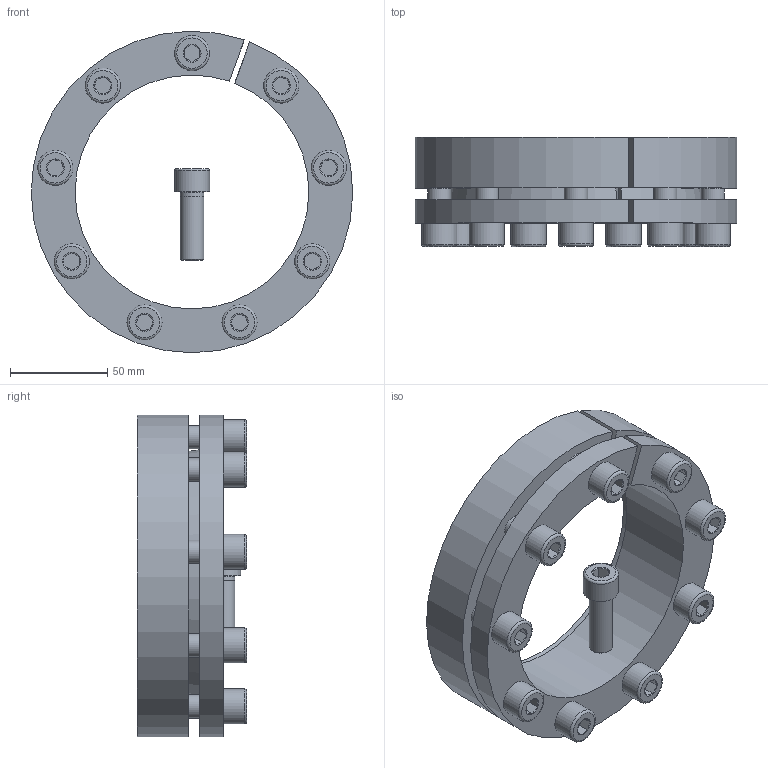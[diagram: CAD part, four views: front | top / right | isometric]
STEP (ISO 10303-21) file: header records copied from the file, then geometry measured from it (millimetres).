
FILE_DESCRIPTION( ( 'Unknown' ), '1' );
FILE_NAME( 'C:/Dokumente und Einstellungen/Sven/Desktop/homepage/cad - homepage/KBS13/KBS 13 - 120 x 165.stp', 'Unknown', ( 'Unknown' ), ( 'Unknown' ), 'XStep 1.0', 'Unknown', ' ' );
FILE_SCHEMA( ( 'automotive_design' ) );
Length unit declared in the file: millimetre
Products named in the file (3): Assem1; KBS 13 - 120 x 165; ISO EN DIN 4762 M12x35
Bounding box: 164.99 x 56 x 164.99 mm (x, y, z)
Volume: 768269.8 mm3; surface area: 198340 mm2
Topology: 12 solids, 12 shells, 310 faces, 634 edges, 388 vertices
Faces by surface type: plane 134, cylinder 82, cone 74, torus 20
Full cylindrical faces by diameter (mm): 11 x10, 12 x56, 18 x10
Entity records: 1848 total; most frequent: CARTESIAN_POINT 304, DIRECTION 286, ORIENTED_EDGE 202, AXIS2_PLACEMENT_3D 129, EDGE_LOOP 120, EDGE_CURVE 101, FACE_OUTER_BOUND 79, VERTEX_POINT 79
